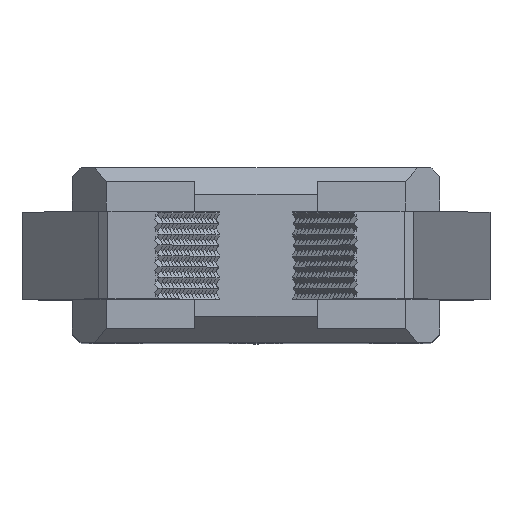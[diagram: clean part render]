
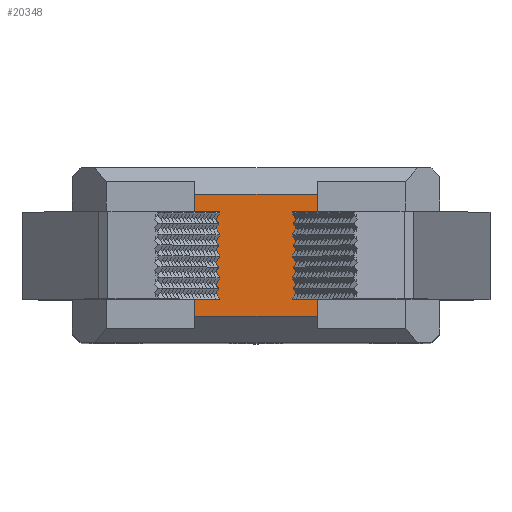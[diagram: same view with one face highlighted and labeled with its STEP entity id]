
A CAD part, top view. The second image highlights one B-rep face of the part: STEP entity #20348.
In plain terms, the highlighted planar face has unit normal (0, 0, 1).
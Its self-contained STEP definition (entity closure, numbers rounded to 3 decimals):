
#72 = VECTOR ( 'NONE', #70743, 1000. ) ;
#1074 = DIRECTION ( 'NONE',  ( 0., 1., 0. ) ) ;
#1619 = ORIENTED_EDGE ( 'NONE', *, *, #70436, .T. ) ;
#2995 = EDGE_CURVE ( 'NONE', #65434, #58902, #56871, .T. ) ;
#3579 = LINE ( 'NONE', #49030, #18249 ) ;
#4378 = DIRECTION ( 'NONE',  ( 0., 0., -1. ) ) ;
#5382 = ORIENTED_EDGE ( 'NONE', *, *, #2995, .T. ) ;
#9671 = PLANE ( 'NONE',  #18435 ) ;
#10572 = DIRECTION ( 'NONE',  ( -1., 0., 0. ) ) ;
#11608 = FACE_OUTER_BOUND ( 'NONE', #25364, .T. ) ;
#12486 = ORIENTED_EDGE ( 'NONE', *, *, #49691, .T. ) ;
#18249 = VECTOR ( 'NONE', #10572, 1000. ) ;
#18435 = AXIS2_PLACEMENT_3D ( 'NONE', #37344, #4378, #42888 ) ;
#19816 = CARTESIAN_POINT ( 'NONE',  ( 430.585, -176.749, 47.09 ) ) ;
#20348 = ADVANCED_FACE ( 'NONE', ( #11608 ), #9671, .F. ) ;
#25364 = EDGE_LOOP ( 'NONE', ( #47469, #5382, #12486, #1619 ) ) ;
#26763 = EDGE_CURVE ( 'NONE', #65434, #56682, #67673, .T. ) ;
#26934 = DIRECTION ( 'NONE',  ( 0., 1., 0. ) ) ;
#28234 = VECTOR ( 'NONE', #26934, 1000. ) ;
#28448 = CARTESIAN_POINT ( 'NONE',  ( 416.585, -185.249, 47.09 ) ) ;
#29437 = VERTEX_POINT ( 'NONE', #47731 ) ;
#32730 = CARTESIAN_POINT ( 'NONE',  ( 430.585, -176.749, 47.09 ) ) ;
#37344 = CARTESIAN_POINT ( 'NONE',  ( 430.585, -185.249, 47.09 ) ) ;
#42888 = DIRECTION ( 'NONE',  ( -1., 0., 0. ) ) ;
#44280 = CARTESIAN_POINT ( 'NONE',  ( 416.585, -176.749, 47.09 ) ) ;
#47469 = ORIENTED_EDGE ( 'NONE', *, *, #26763, .F. ) ;
#47731 = CARTESIAN_POINT ( 'NONE',  ( 430.585, -162.749, 47.09 ) ) ;
#49030 = CARTESIAN_POINT ( 'NONE',  ( 407.585, -162.749, 47.09 ) ) ;
#49691 = EDGE_CURVE ( 'NONE', #58902, #29437, #70433, .T. ) ;
#54709 = VECTOR ( 'NONE', #1074, 1000. ) ;
#56682 = VERTEX_POINT ( 'NONE', #70588 ) ;
#56871 = LINE ( 'NONE', #32730, #72 ) ;
#58902 = VERTEX_POINT ( 'NONE', #19816 ) ;
#65434 = VERTEX_POINT ( 'NONE', #44280 ) ;
#67673 = LINE ( 'NONE', #28448, #54709 ) ;
#70433 = LINE ( 'NONE', #71261, #28234 ) ;
#70436 = EDGE_CURVE ( 'NONE', #29437, #56682, #3579, .T. ) ;
#70588 = CARTESIAN_POINT ( 'NONE',  ( 416.585, -162.749, 47.09 ) ) ;
#70743 = DIRECTION ( 'NONE',  ( 1., 0., 0. ) ) ;
#71261 = CARTESIAN_POINT ( 'NONE',  ( 430.585, -185.249, 47.09 ) ) ;
